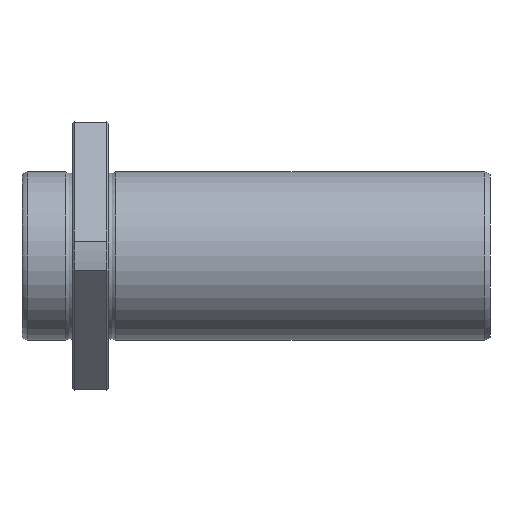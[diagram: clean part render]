
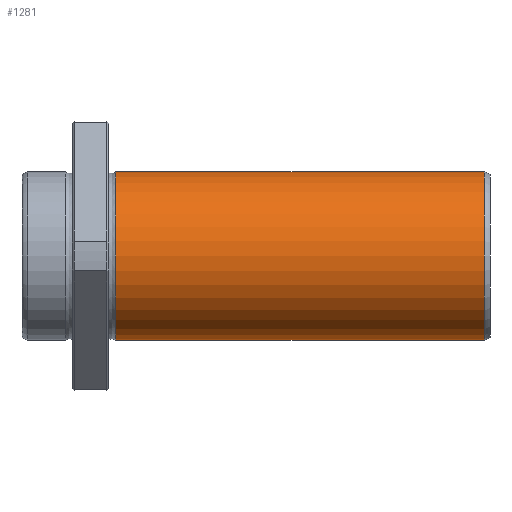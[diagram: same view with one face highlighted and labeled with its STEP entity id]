
A CAD part, front view. The second image highlights one B-rep face of the part: STEP entity #1281.
In plain terms, the highlighted cylindrical face has radius 30 mm (diameter 60 mm), a full revolution.
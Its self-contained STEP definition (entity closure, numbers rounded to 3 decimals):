
#1247=CARTESIAN_POINT('',(165.016,0.0,30.));
#1248=VERTEX_POINT('',#1247);
#1249=CARTESIAN_POINT('',(165.016,0.0,0.0));
#1250=DIRECTION('',(-1.0,0.0,0.0));
#1251=DIRECTION('',(0.0,0.0,1.0));
#1252=AXIS2_PLACEMENT_3D('',#1249,#1250,#1251);
#1253=CIRCLE('',#1252,30.);
#1254=EDGE_CURVE('',#1248,#1248,#1253,.T.);
#1262=CARTESIAN_POINT('',(99.208,0.0,0.0));
#1263=DIRECTION('',(-1.0,0.0,0.0));
#1264=DIRECTION('',(0.0,0.0,1.0));
#1265=AXIS2_PLACEMENT_3D('',#1262,#1263,#1264);
#1266=CYLINDRICAL_SURFACE('',#1265,30.);
#1267=CARTESIAN_POINT('',(33.4,0.0,30.));
#1268=VERTEX_POINT('',#1267);
#1269=CARTESIAN_POINT('',(33.4,0.0,0.0));
#1270=DIRECTION('',(-1.0,0.0,0.0));
#1271=DIRECTION('',(0.0,0.0,1.0));
#1272=AXIS2_PLACEMENT_3D('',#1269,#1270,#1271);
#1273=CIRCLE('',#1272,30.);
#1274=EDGE_CURVE('',#1268,#1268,#1273,.T.);
#1275=ORIENTED_EDGE('',*,*,#1274,.F.);
#1276=EDGE_LOOP('',(#1275));
#1277=FACE_OUTER_BOUND('',#1276,.T.);
#1278=ORIENTED_EDGE('',*,*,#1254,.T.);
#1279=EDGE_LOOP('',(#1278));
#1280=FACE_BOUND('',#1279,.T.);
#1281=ADVANCED_FACE('',(#1277,#1280),#1266,.T.);
